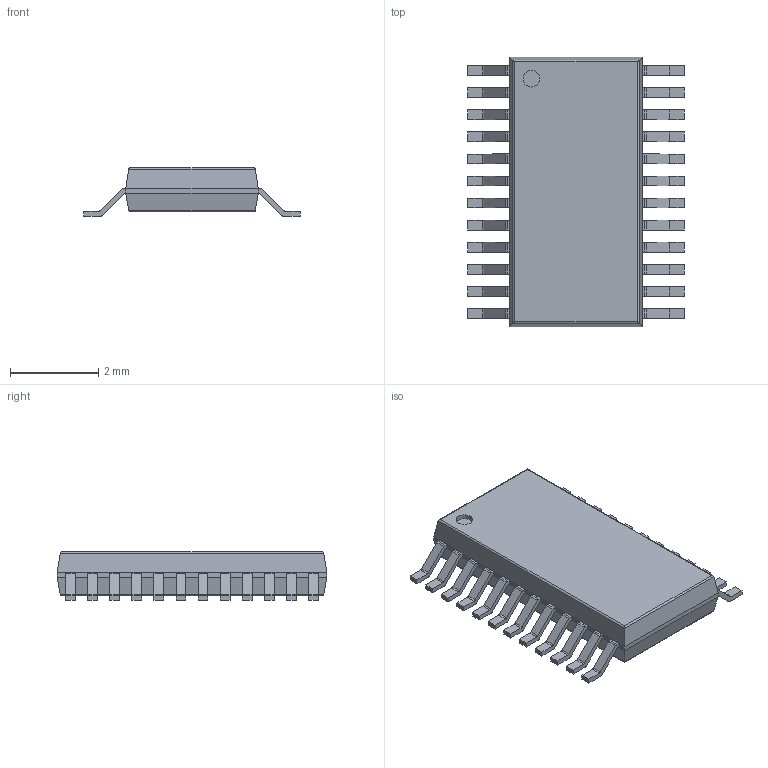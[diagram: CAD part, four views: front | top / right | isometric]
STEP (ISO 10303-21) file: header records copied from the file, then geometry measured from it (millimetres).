
FILE_DESCRIPTION(('FreeCAD Model'),'2;1');
FILE_NAME('/var/www/3D/0T/20007866.1.1.stp','2025-02-06T13:34:05',( 'Author'),(''),'Open CASCADE STEP processor 6.9','FreeCAD','Unknown' );
FILE_SCHEMA(('AUTOMOTIVE_DESIGN { 1 0 10303 214 1 1 1 1 }'));
Length unit declared in the file: millimetre
Products named in the file (3): ASSEMBLY; Body; PinsArrayLR
Assembly tree (2 placements, depth 2):
  ASSEMBLY
    Body
    PinsArrayLR
Bounding box: 4.9 x 6.1 x 1.1 mm (x, y, z)
Volume: 18.4 mm3; surface area: 71.4 mm2
Topology: 25 solids, 25 shells, 336 faces, 839 edges, 554 vertices
Faces by surface type: plane 255, cylinder 81
Full cylindrical faces by diameter (mm): 0.375 x1
Entity records: 21323 total; most frequent: CARTESIAN_POINT 4022, DIRECTION 3209, LINE 2149, VECTOR 2149, ORIENTED_EDGE 1678, PCURVE 1678, DEFINITIONAL_REPRESENTATION 1678, EDGE_CURVE 839
